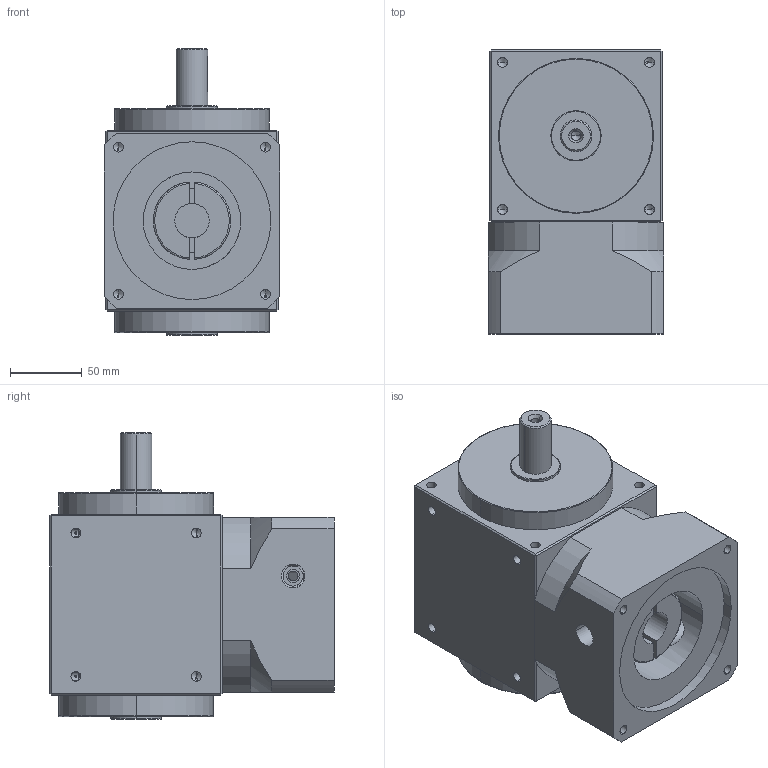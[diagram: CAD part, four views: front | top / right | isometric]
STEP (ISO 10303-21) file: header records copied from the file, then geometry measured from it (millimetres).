
FILE_DESCRIPTION (( 'STEP AP203' ), '1' );
FILE_NAME ('KHT120-S1-L0£r110PCD£r145M8.STEP', '2014-03-24T08:47:58', ( 'KELLY' ), ( '' ), 'SwSTEP 2.0', 'SolidWorks 2012', '' );
FILE_SCHEMA (( 'CONFIG_CONTROL_DESIGN' ));
Length unit declared in the file: millimetre
Products named in the file (1): KHT120-S1-L0｣r110PCD｣r145M8
Bounding box: 122 x 198 x 200 mm (x, y, z)
Volume: 2960429.8 mm3; surface area: 224857 mm2
Topology: 3 solids, 3 shells, 279 faces, 641 edges, 352 vertices
Faces by surface type: cylinder 121, cone 90, plane 56, torus 12
Entity records: 8497 total; most frequent: CARTESIAN_POINT 2459, DIRECTION 1274, ORIENTED_EDGE 1182, EDGE_CURVE 591, AXIS2_PLACEMENT_3D 507, VERTEX_POINT 352, EDGE_LOOP 333, ADVANCED_FACE 279
